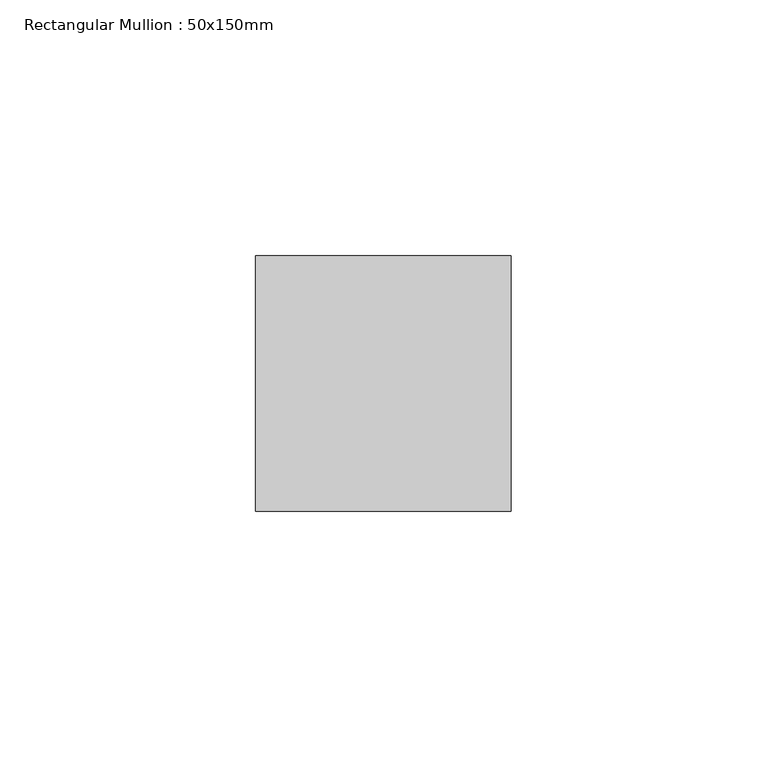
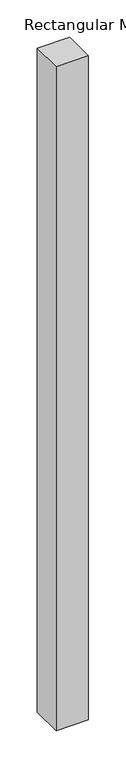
"""IFC4 building model written with IfcOpenShell, lengths in millimetres: member geometry, Rectangular Mullion : 50x150mm."""

from ifc_helpers import new_model, si_unit, frame, origin, place, context, project, spatial, polyline, outline, extrude, source, transform, mapped, element, save


def rectangular_mullion_50x150mm_ea022c74(model_context):
    return source(origin(), model_context, "Body", "SweptSolid", [
        extrude(outline(polyline([(0.0, 25.0), (0.0, -25.0), (-50.0, -25.0), (-50.0, 25.0), (0.0, 25.0)])), frame((0.0, 0.0, -1083.4529299), z_axis=(0.0, 0.0, 1.0), x_axis=(1.0, 0.0, 0.0)), (0.0, 0.0, 1.0), 1083.4529299),
    ])


if __name__ == "__main__":
    model = new_model("IFC4")
    model_context = context("Model", 3, world=origin())
    ifc_project = project(units=[si_unit("LENGTHUNIT", "METRE", prefix="MILLI")], contexts=[model_context])
    site = spatial("IfcSite", under=ifc_project)
    building = spatial("IfcBuilding", under=site)
    placement = place(None, origin())
    rectangular_mullion_50x150mm_shape = rectangular_mullion_50x150mm_ea022c74(model_context)
    element("IfcMember", 1, ObjectType="Rectangular Mullion : 50x150mm", at=placement, inside=building, context=model_context, shape_type="MappedRepresentation", body=[
        mapped(rectangular_mullion_50x150mm_shape, transform((0.0, 0.0, 0.0), x_axis=(1.0, 0.0, 0.0), y_axis=(0.0, 1.0, 0.0), z_axis=(0.0, 0.0, 1.0))),
    ])
    save(model, "model.ifc")
